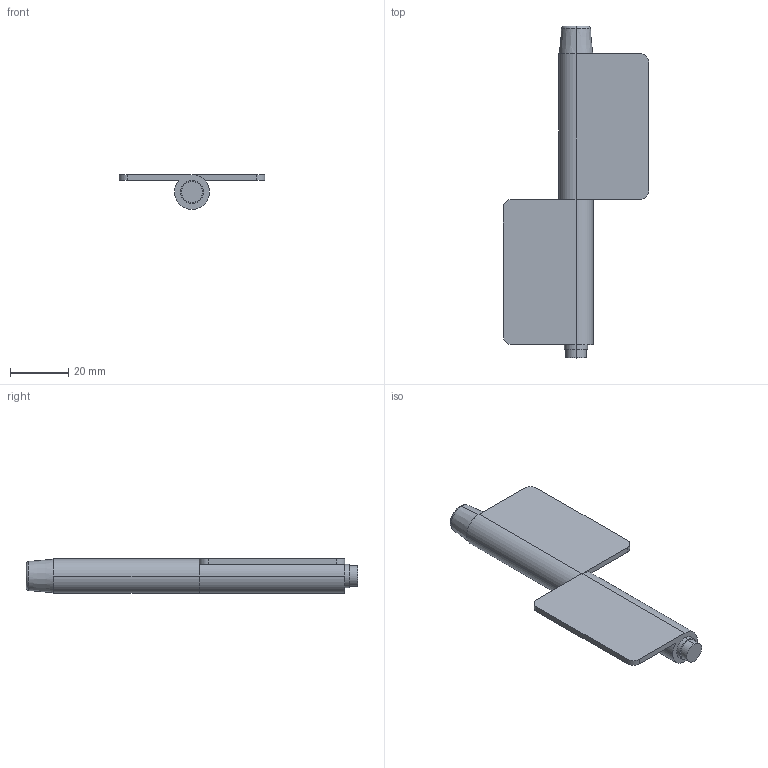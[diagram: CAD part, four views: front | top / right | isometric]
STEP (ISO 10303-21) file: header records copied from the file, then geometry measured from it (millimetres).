
FILE_DESCRIPTION (( 'STEP AP203' ), '1' );
FILE_NAME ('B31-12401.STEP', '2025-06-26T08:08:24', ( '' ), ( '' ), 'SwSTEP 2.0', 'SolidWorks 2021', '' );
FILE_SCHEMA (( 'CONFIG_CONTROL_DESIGN' ));
Length unit declared in the file: millimetre
Products named in the file (3): B31-12401-片; B31-12401; B31-12401-軸
Assembly tree (3 placements, depth 2):
  B31-12401
    B31-12401-軸
    B31-12401-片  x2
Bounding box: 50 x 114 x 12 mm (x, y, z)
Volume: 16718.1 mm3; surface area: 14039.3 mm2
Topology: 3 solids, 3 shells, 36 faces, 82 edges, 54 vertices
Faces by surface type: cylinder 18, plane 14, torus 2, cone 2
Entity records: 1011 total; most frequent: DIRECTION 142, CARTESIAN_POINT 116, ORIENTED_EDGE 104, AXIS2_PLACEMENT_3D 60, EDGE_CURVE 52, VERTEX_POINT 34, CIRCLE 30, EDGE_LOOP 28
